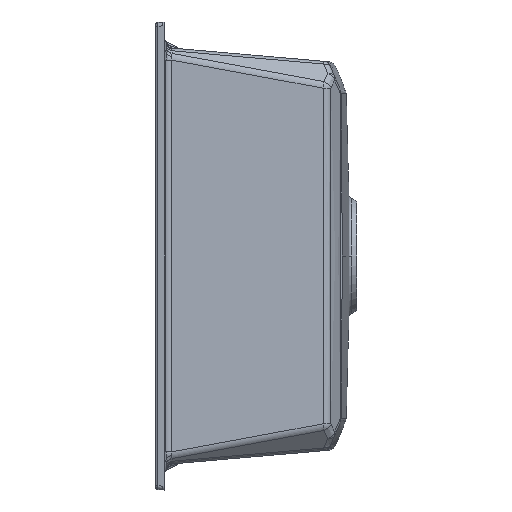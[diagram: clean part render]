
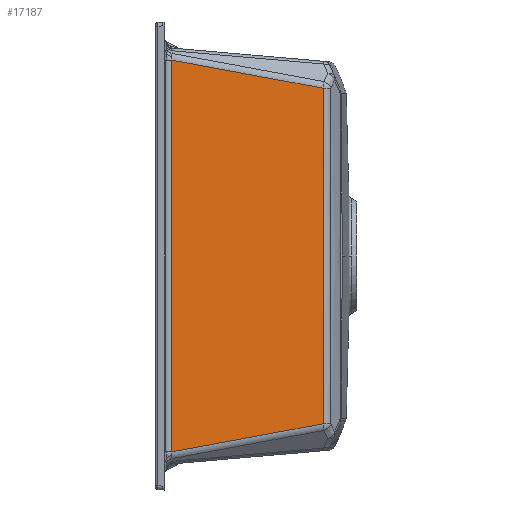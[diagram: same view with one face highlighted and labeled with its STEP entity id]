
A CAD part, left-side view. The second image highlights one B-rep face of the part: STEP entity #17187.
In plain terms, the highlighted planar face has unit normal (-0.996, -0.087, 0).
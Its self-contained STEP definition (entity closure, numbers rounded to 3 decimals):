
#236 = CARTESIAN_POINT ( 'NONE',  ( 41.961, -169.361, -429.27 ) ) ;
#3205 = DIRECTION ( 'NONE',  ( 0., 0., -1. ) ) ;
#3214 = PLANE ( 'NONE',  #7411 ) ;
#4202 = EDGE_CURVE ( 'NONE', #17275, #25782, #21417, .T. ) ;
#5000 = FACE_OUTER_BOUND ( 'NONE', #26448, .T. ) ;
#5983 = CARTESIAN_POINT ( 'NONE',  ( 27.806, -7.562, -459.317 ) ) ;
#6373 = CARTESIAN_POINT ( 'NONE',  ( 26.28, 9.882, -462.556 ) ) ;
#6616 = CARTESIAN_POINT ( 'NONE',  ( 27.806, -7.562, -40.683 ) ) ;
#7363 = CARTESIAN_POINT ( 'NONE',  ( 41.961, -169.361, -70.73 ) ) ;
#7411 = AXIS2_PLACEMENT_3D ( 'NONE', #23641, #23744, #10144 ) ;
#7458 = ORIENTED_EDGE ( 'NONE', *, *, #19534, .T. ) ;
#10144 = DIRECTION ( 'NONE',  ( 0.087, -0.996, 0. ) ) ;
#10537 = CARTESIAN_POINT ( 'NONE',  ( 41.961, -169.361, -429.27 ) ) ;
#12715 = VERTEX_POINT ( 'NONE', #6616 ) ;
#12836 = CARTESIAN_POINT ( 'NONE',  ( 42.063, -170.522, -190.241 ) ) ;
#13995 = ORIENTED_EDGE ( 'NONE', *, *, #14148, .T. ) ;
#14148 = EDGE_CURVE ( 'NONE', #25782, #18379, #24883, .T. ) ;
#14867 = VECTOR ( 'NONE', #3205, 1000. ) ;
#14887 = LINE ( 'NONE', #15722, #25503 ) ;
#15145 = CARTESIAN_POINT ( 'NONE',  ( 41.961, -169.361, -70.73 ) ) ;
#15722 = CARTESIAN_POINT ( 'NONE',  ( 33.005, -66.991, -51.719 ) ) ;
#17187 = ADVANCED_FACE ( 'NONE', ( #5000 ), #3214, .T. ) ;
#17275 = VERTEX_POINT ( 'NONE', #5983 ) ;
#18027 = DIRECTION ( 'NONE',  ( -0.086, 0.98, 0.182 ) ) ;
#18379 = VERTEX_POINT ( 'NONE', #7363 ) ;
#19125 = CARTESIAN_POINT ( 'NONE',  ( 27.806, -7.562, -460.164 ) ) ;
#19534 = EDGE_CURVE ( 'NONE', #18379, #12715, #14887, .T. ) ;
#20705 = VECTOR ( 'NONE', #24516, 1000. ) ;
#21417 = LINE ( 'NONE', #6373, #20705 ) ;
#21595 = LINE ( 'NONE', #19125, #14867 ) ;
#22239 = EDGE_CURVE ( 'NONE', #12715, #17275, #21595, .T. ) ;
#23641 = CARTESIAN_POINT ( 'NONE',  ( 26.33, 9.303, -465.7 ) ) ;
#23744 = DIRECTION ( 'NONE',  ( -0.996, -0.087, 0. ) ) ;
#24137 = CARTESIAN_POINT ( 'NONE',  ( 42.025, -170.091, -369.516 ) ) ;
#24516 = DIRECTION ( 'NONE',  ( 0.086, -0.98, 0.182 ) ) ;
#24883 = B_SPLINE_CURVE_WITH_KNOTS ( 'NONE', 3,
 ( #10537, #24137, #26415, #12836, #28698, #15145 ),
 .UNSPECIFIED., .F., .F.,
 ( 4, 2, 4 ),
 ( 0., 0.179, 0.359 ),
 .UNSPECIFIED. ) ;
#25503 = VECTOR ( 'NONE', #18027, 1000. ) ;
#25782 = VERTEX_POINT ( 'NONE', #236 ) ;
#26415 = CARTESIAN_POINT ( 'NONE',  ( 42.063, -170.522, -309.759 ) ) ;
#26448 = EDGE_LOOP ( 'NONE', ( #7458, #28969, #27883, #13995 ) ) ;
#27883 = ORIENTED_EDGE ( 'NONE', *, *, #4202, .T. ) ;
#28698 = CARTESIAN_POINT ( 'NONE',  ( 42.025, -170.091, -130.484 ) ) ;
#28969 = ORIENTED_EDGE ( 'NONE', *, *, #22239, .T. ) ;
